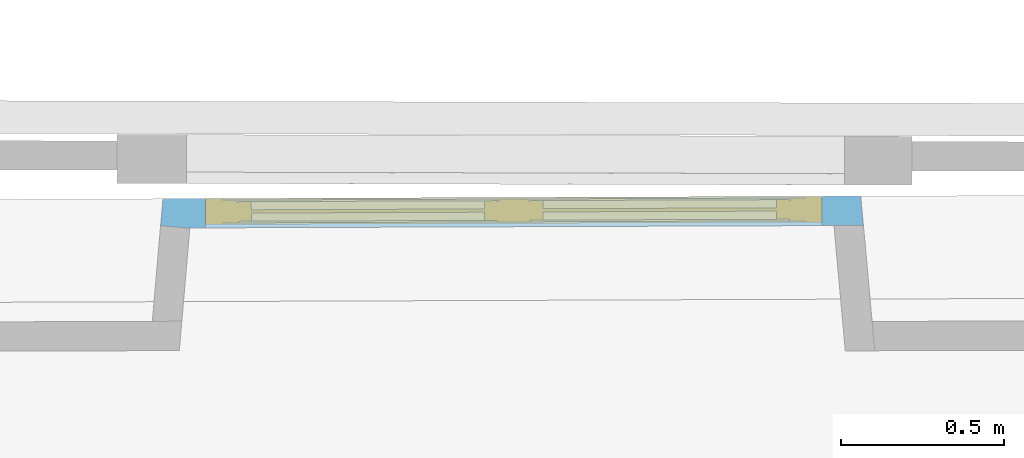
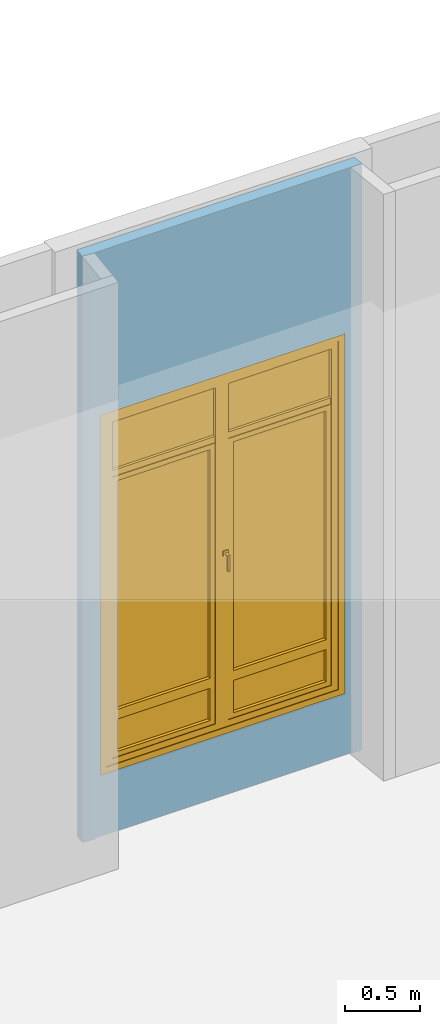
# One storey, part 67 of 97: 1 window, 2 openings, plus 1 element that does not belong to this part.
"""IFC2X3 building model written with IfcOpenShell, lengths in centimetres."""

from ifc_helpers import new_model, entity, si_unit, converted_unit, direction, frame, origin, origin_with_axes, place, context, subcontext, project, spatial, polyline, outline, extrude, faceted_brep, shape, source, transform, mapped, material, material_list, layer, layer_set, layer_usage, type_object, element, fill, save


model = new_model("IFC2X3")

# Units and contexts
model_context = context("Model", 3, precision=0.0001, world=origin(), true_north=direction((0.225632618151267, 0.974212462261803, 0.0)))
body_context = subcontext(model_context, "Body", "Model", "MODEL_VIEW")
footprint_context = subcontext(model_context, "FootPrint", "Model", "MODEL_VIEW")
profile_context = subcontext(model_context, "Profile", "Model", "MODEL_VIEW")
ifc_project = project(units=[si_unit("LENGTHUNIT", "METRE", prefix="CENTI"), si_unit("AREAUNIT", "SQUARE_METRE", prefix="CENTI"), si_unit("VOLUMEUNIT", "CUBIC_METRE", prefix="CENTI"), converted_unit("PLANEANGLEUNIT", "DEGREE", entity("IfcRatioMeasure", 0.0174532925), si_unit("PLANEANGLEUNIT", "RADIAN"), dimensions=[0, 0, 0, 0, 0, 0, 0])], contexts=[model_context])

# Site, building, storey
site_placement = place(None, origin_with_axes())
site = spatial("IfcSite", under=ifc_project, at=site_placement, Name="Default Site", CompositionType="ELEMENT")
building_placement = place(site_placement, origin_with_axes())
building = spatial("IfcBuilding", under=site, at=building_placement, Name="Default Building", CompositionType="ELEMENT")
storey_placement = place(building_placement, origin_with_axes())
storey = spatial("IfcBuildingStorey", under=building, at=storey_placement, Name="Rez-de-chaussée", CompositionType="ELEMENT", Elevation=0.0)

# Wall, openings, window
ifc_material_1 = material(Name="<aucun>")
ifc_layer = layer(ifc_material_1, 9.0)
ifc_layer_set = layer_set([ifc_layer], Name="default")
ifc_layer_usage = layer_usage(ifc_layer_set, "AXIS2", "POSITIVE", -4.5)
wall_type = type_object("IfcWallType", Name="default 90", PredefinedType="NOTDEFINED", material=ifc_layer_set)
wall_placement = place(storey_placement, frame((-307.751819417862, 587.712182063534, 0.0128503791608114), z_axis=(0.0, 0.0, 1.0), x_axis=(0.999993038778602, 0.00373127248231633, 0.0)))
wall = element("IfcWallStandardCase", 1, at=wall_placement, inside=storey, type_object=wall_type, material=ifc_layer_usage, Name="Enveloppe 669420", context=body_context, shape_type="SweptSolid", body=[
    extrude(outline(polyline([(-4.85903824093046, -3.79296680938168), (3.00765598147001, -4.49999999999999), (210.685028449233, -4.49999999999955), (209.905498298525, 4.50000000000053), (-4.11369304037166, 4.50000000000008), (-4.85903824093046, -3.79296680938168)])), frame((0.0, 0.0, 2.71050543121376e-18), z_axis=(0.0, 0.0, 1.0), x_axis=(1.0, 0.0, 0.0)), (0.0, 0.0, 1.0), 477.795358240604),
])
opening_1_placement = place(wall_placement, frame((4.8724148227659, 0.0, 9.43706918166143e-14), z_axis=(0.0, 0.0, 1.0), x_axis=(-1.0, -2.36789754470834e-15, 0.0)))
cartesian_point_1 = entity("IfcCartesianPoint", [0.0, 0.0, 48.5])
cartesian_point_2 = entity("IfcCartesianPoint", [-198.0, -4.50000000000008])
element("IfcOpeningElement", 2, at=opening_1_placement, cuts=wall, Name="Baie 30039", ObjectType="Recess", shapes=[
    shape(body_context, "Body", "Brep", [faceted_brep([(-3.08828354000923e-06, 24.5000184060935, -4.62702109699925e-10), (-198.000000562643, 24.5000184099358, -4.62702109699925e-10), (-198.000000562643, 24.5000184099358, 48.4999988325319), (-3.08828354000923e-06, 24.5000184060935, 48.4999988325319), (-3.08869106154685e-06, 3.50001141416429, 48.4999988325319), (-3.08869106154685e-06, 3.50001141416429, -4.62702109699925e-10), (8.35052929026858e-06, 3.50001141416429, -4.62702109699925e-10), (-198.000001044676, 3.4999919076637, -4.62702109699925e-10), (-198.000000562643, 24.4999988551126, -4.62702109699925e-10), (-198.00000056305, 3.4999919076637, -4.62702109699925e-10), (-198.00000056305, 3.4999919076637, 48.4999988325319), (-198.000000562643, 24.4999988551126, 48.4999988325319), (-198.000001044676, 3.4999919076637, 48.4999988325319), (8.35052929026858e-06, 3.50001141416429, 48.4999988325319), (8.35052928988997e-06, 3.49999190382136, -4.62702109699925e-10), (8.35052928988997e-06, 3.49999190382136, 48.4999988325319)], [[[0, 1, 2, 3]], [[3, 4, 5, 0]], [[0, 6, 7, 8]], [[8, 9, 10, 11]], [[11, 12, 13, 3]], [[12, 7, 14, 15]]])]),
    shape(profile_context, "Profile", "GeometricCurveSet", [entity("IfcGeometricCurveSet", [entity("IfcPolyline", [cartesian_point_1, entity("IfcCartesianPoint", [0.0, 0.0, -5.42101086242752e-18]), entity("IfcCartesianPoint", [-198.0, 0.0, -5.42101086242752e-18]), entity("IfcCartesianPoint", [-198.0, 0.0, 48.5]), cartesian_point_1])])]),
    shape(footprint_context, "FootPrint", "GeometricCurveSet", [entity("IfcGeometricCurveSet", [entity("IfcPolyline", [cartesian_point_2, entity("IfcCartesianPoint", [0.0, -4.49999999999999]), entity("IfcCartesianPoint", [0.0, 4.50000000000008]), entity("IfcCartesianPoint", [-198.0, 4.50000000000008]), cartesian_point_2])])]),
])
opening_2_placement = place(wall_placement, frame((8.97018832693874, 1.13686837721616e-13, 49.8226471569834), z_axis=(0.0, 0.0, 1.0), x_axis=(-1.0, -2.36789754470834e-15, 0.0)))
cartesian_point_3 = entity("IfcCartesianPoint", [0.0, 0.0, 294.0])
cartesian_point_4 = entity("IfcCartesianPoint", [-189.020783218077, -4.49999999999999])
opening_2 = element("IfcOpeningElement", 3, at=opening_2_placement, cuts=wall, Name="4294966447_11", ObjectType="Opening", shapes=[
    shape(body_context, "Body", "SweptSolid", [extrude(outline(polyline([(0.0, 294.0), (0.0, 0.0), (189.020783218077, 0.0), (189.020783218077, 294.0), (0.0, 294.0)])), frame((0.0, -14.5, 0.0), z_axis=(0.0, 1.0, 0.0), x_axis=(-1.0, 0.0, 0.0)), (0.0, 0.0, 1.0), 29.0)]),
    shape(profile_context, "Profile", "GeometricCurveSet", [entity("IfcGeometricCurveSet", [entity("IfcPolyline", [cartesian_point_3, entity("IfcCartesianPoint", [0.0, 0.0, 0.0]), entity("IfcCartesianPoint", [-189.020783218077, 8.88178419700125e-14, 0.0]), entity("IfcCartesianPoint", [-189.020783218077, 8.88178419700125e-14, 294.0]), cartesian_point_3])])]),
    shape(footprint_context, "FootPrint", "GeometricCurveSet", [entity("IfcGeometricCurveSet", [entity("IfcPolyline", [cartesian_point_4, entity("IfcCartesianPoint", [0.0, -4.50000000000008]), entity("IfcCartesianPoint", [4.44089209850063e-14, 4.49999999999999]), entity("IfcCartesianPoint", [-189.020783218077, 4.50000000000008]), cartesian_point_4])])]),
])
ifc_material_2 = material(Name="Transparent")
ifc_material_3 = material(Name="Blanc trafic")
ifc_material_4 = material(Name="Aluminium satiné")
ifc_material_5 = material(Name="Blanc trafic")
ifc_material_list = material_list([ifc_material_2, ifc_material_3, ifc_material_4, ifc_material_5])
window_style = type_object("IfcWindowStyle", Name="FN[R] 2VB[2V] MM", ConstructionType="NOTDEFINED", OperationType="NOTDEFINED", ParameterTakesPrecedence=False, Sizeable=False, material=ifc_material_list)
shared_shape = source(origin_with_axes(), body_context, "Body", "Brep", [
    faceted_brep([(-89.5103931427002, 289.000010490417, -3.99999991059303), (-89.5103931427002, 289.000010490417, 3.99999991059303), (-89.5103931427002, 5.00000007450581, 3.99999991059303), (-89.5103931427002, 5.00000007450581, -3.99999991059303), (-94.5103943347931, 294.000005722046, 3.99999991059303), (-94.5103943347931, 5.55111512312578e-15, 3.99999991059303), (-94.5103943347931, 294.000005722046, -3.99999991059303), (-94.5103943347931, 5.55111512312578e-15, -3.99999991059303), (89.5103931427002, 5.00000007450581, 3.99999991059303), (89.5103931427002, 5.00000007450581, -3.99999991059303), (94.5103943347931, 5.55111512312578e-15, 3.99999991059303), (94.5103943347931, 5.55111512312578e-15, -3.99999991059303), (89.5103931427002, 289.000010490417, 3.99999991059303), (89.5103931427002, 289.000010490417, -3.99999991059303), (94.5103943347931, 294.000005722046, 3.99999991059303), (94.5103943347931, 294.000005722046, -3.99999991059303)], [[[0, 1, 2, 3]], [[1, 4, 5, 2]], [[4, 6, 7, 5]], [[6, 0, 3, 7]], [[3, 2, 8, 9]], [[2, 5, 10, 8]], [[5, 7, 11, 10]], [[7, 3, 9, 11]], [[9, 8, 12, 13]], [[8, 10, 14, 12]], [[10, 11, 15, 14]], [[11, 9, 13, 15]], [[13, 12, 1, 0]], [[12, 14, 4, 1]], [[14, 15, 6, 4]], [[15, 13, 0, 6]]]),
    faceted_brep([(-85.510390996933, 284.999990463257, -3.50000001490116), (-84.510391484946, 283.999991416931, -2.50000050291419), (-84.510391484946, 10.0000001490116, -2.50000050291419), (-85.510390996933, 9.00000035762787, -3.50000001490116), (-84.5103919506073, 283.999991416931, -2.5000000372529), (-84.5103919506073, 283.999991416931, 3.50000001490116), (-84.5103919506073, 10.0000001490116, 3.50000001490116), (-84.5103919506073, 10.0000001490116, -2.5000000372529), (-89.5103931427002, 289.000010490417, 3.50000001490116), (-89.5103931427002, 5.00000007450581, 3.50000001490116), (-89.5103931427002, 289.000010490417, -3.50000001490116), (-89.5103931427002, 5.00000007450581, -3.50000001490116), (-84.5103919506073, 10.0000002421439, -2.50000013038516), (-5.00000007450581, 10.0000002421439, -2.50000013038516), (-3.99999991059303, 9.00000035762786, -3.50000001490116), (-5.00000007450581, 10.0000001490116, 3.50000001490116), (-5.00000007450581, 10.0000001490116, -2.5000000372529), (1.11022302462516e-14, 5.00000007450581, 3.50000001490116), (1.11022302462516e-14, 5.00000007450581, -3.50000001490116), (-3.99999991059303, 9.00000035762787, -3.50000001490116), (-4.99999998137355, 10.0000001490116, -2.49999994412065), (-4.99999998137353, 283.999991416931, -2.49999994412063), (-3.99999991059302, 284.999990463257, -3.50000001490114), (-5.00000007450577, 283.999991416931, 3.50000001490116), (-5.00000007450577, 283.999991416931, -2.5000000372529), (3.33066907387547e-14, 289.000010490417, 3.50000001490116), (-5.00000007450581, 283.999991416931, 3.50000001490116), (3.33066918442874e-14, 289.000010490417, -3.50000001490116), (3.33066918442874e-14, 289.000010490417, 3.50000001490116), (-3.99999991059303, 284.999990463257, -3.50000001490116), (3.33066907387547e-14, 289.000010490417, -3.50000001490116), (-5.00000007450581, 283.99999095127, -2.50000050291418), (-84.5103919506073, 283.99999095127, -2.50000050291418), (-5.00000007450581, 283.999991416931, -2.5000000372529)], [[[0, 1, 2, 3]], [[4, 5, 6, 7]], [[5, 8, 9, 6]], [[8, 10, 11, 9]], [[10, 0, 3, 11]], [[3, 12, 13, 14]], [[7, 6, 15, 16]], [[6, 9, 17, 15]], [[9, 11, 18, 17]], [[11, 3, 19, 18]], [[19, 20, 21, 22]], [[16, 15, 23, 24]], [[15, 17, 25, 26]], [[17, 18, 27, 28]], [[18, 19, 29, 30]], [[29, 31, 32, 0]], [[33, 26, 5, 4]], [[26, 25, 8, 5]], [[25, 30, 10, 8]], [[30, 29, 0, 10]]]),
    faceted_brep([(-5.00000007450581, 283.999991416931, -0.499999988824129), (-5.00000007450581, 243.650007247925, -0.499999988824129), (-84.5103919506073, 243.650007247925, -0.499999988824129), (-84.5103919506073, 283.999991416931, -0.499999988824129), (-84.5103919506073, 283.999991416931, 0.499999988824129), (-84.5103919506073, 243.650007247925, 0.499999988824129), (-5.00000007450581, 243.650007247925, 0.499999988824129), (-5.00000007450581, 283.999991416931, 0.499999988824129)], [[[0, 1, 2, 3]], [[4, 5, 6, 7]], [[3, 2, 5, 4]], [[2, 1, 6, 5]], [[1, 0, 7, 6]], [[0, 3, 4, 7]]]),
    faceted_brep([(-5.00000007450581, 238.649988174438, 2.5000000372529), (-5.00000007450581, 238.649988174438, -2.5000000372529), (-5.00000007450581, 243.650007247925, -2.5000000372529), (-5.00000007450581, 243.650007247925, 2.5000000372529), (-84.5103919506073, 243.650007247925, 2.5000000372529), (-84.5103919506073, 243.650007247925, -2.5000000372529), (-84.5103919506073, 238.649988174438, -2.5000000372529), (-84.5103919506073, 238.649988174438, 2.5000000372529)], [[[0, 1, 2, 3]], [[4, 5, 6, 7]], [[3, 2, 5, 4]], [[2, 1, 6, 5]], [[1, 0, 7, 6]], [[0, 3, 4, 7]]]),
    faceted_brep([(-80.5103898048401, 234.649991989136, -2.99999993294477), (-80.5103898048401, 234.649991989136, 2.99999993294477), (-80.5103898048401, 48.2975006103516, 2.99999993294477), (-80.5103898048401, 48.2975006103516, -2.99999993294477), (-84.5103919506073, 238.649988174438, 2.99999993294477), (-84.5103919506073, 44.2975014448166, 2.99999993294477), (-84.5103919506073, 238.649988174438, -2.99999993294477), (-84.5103919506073, 44.2975014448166, -2.99999993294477), (-9.00000035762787, 48.2975006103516, 2.99999993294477), (-9.00000035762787, 48.2975006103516, -2.99999993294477), (-5.00000007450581, 44.2975014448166, 2.99999993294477), (-5.00000007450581, 44.2975014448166, -2.99999993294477), (-9.00000035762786, 234.649991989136, 2.99999993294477), (-9.00000035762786, 234.649991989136, -2.99999993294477), (-5.00000007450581, 238.649988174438, 2.99999993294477), (-9.00000035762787, 234.649991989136, 2.99999993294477), (-5.00000007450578, 238.649988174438, -2.99999993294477), (-5.00000007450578, 238.649988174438, 2.99999993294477), (-9.00000035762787, 234.649991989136, -2.99999993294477), (-5.00000007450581, 238.649988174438, -2.99999993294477)], [[[0, 1, 2, 3]], [[1, 4, 5, 2]], [[4, 6, 7, 5]], [[6, 0, 3, 7]], [[3, 2, 8, 9]], [[2, 5, 10, 8]], [[5, 7, 11, 10]], [[7, 3, 9, 11]], [[9, 8, 12, 13]], [[8, 10, 14, 15]], [[10, 11, 16, 17]], [[11, 9, 18, 19]], [[18, 15, 1, 0]], [[15, 14, 4, 1]], [[14, 19, 6, 4]], [[19, 18, 0, 6]]]),
    faceted_brep([(-9.00000035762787, 234.649991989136, -0.499999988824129), (-9.00000035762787, 48.2975006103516, -0.499999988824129), (-80.5103898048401, 48.2975006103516, -0.499999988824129), (-80.5103898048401, 234.649991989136, -0.499999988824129), (-80.5103898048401, 234.649991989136, 0.499999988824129), (-80.5103898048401, 48.2975006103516, 0.499999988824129), (-9.00000035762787, 48.2975006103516, 0.499999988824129), (-9.00000035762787, 234.649991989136, 0.499999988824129), (-9.00000035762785, 234.649991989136, -0.499999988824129), (-9.00000035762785, 234.649991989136, 0.499999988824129)], [[[0, 1, 2, 3]], [[4, 5, 6, 7]], [[3, 2, 5, 4]], [[2, 1, 6, 5]], [[1, 8, 9, 6]], [[0, 3, 4, 7]]]),
    faceted_brep([(-80.5103898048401, 40.2974992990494, -2.99999993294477), (-80.5103898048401, 40.2974992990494, 2.99999993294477), (-80.5103898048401, 14.0000000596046, 2.99999993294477), (-80.5103898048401, 14.0000000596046, -2.99999993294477), (-84.5103919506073, 44.2975014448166, 2.99999993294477), (-84.5103919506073, 10.0000001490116, 2.99999993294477), (-84.5103919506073, 44.2975014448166, -2.99999993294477), (-84.5103919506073, 10.0000001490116, -2.99999993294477), (-9.00000035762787, 14.0000000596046, 2.99999993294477), (-9.00000035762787, 14.0000000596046, -2.99999993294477), (-5.00000007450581, 10.0000001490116, 2.99999993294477), (-5.00000007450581, 10.0000001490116, -2.99999993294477), (-9.00000035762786, 40.2974992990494, 2.99999993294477), (-9.00000035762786, 40.2974992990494, -2.99999993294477), (-5.00000007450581, 44.2975014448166, 2.99999993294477), (-9.00000035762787, 40.2974992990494, 2.99999993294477), (-5.00000007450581, 44.2975014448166, -2.99999993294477), (-9.00000035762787, 40.2974992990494, -2.99999993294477)], [[[0, 1, 2, 3]], [[1, 4, 5, 2]], [[4, 6, 7, 5]], [[6, 0, 3, 7]], [[3, 2, 8, 9]], [[2, 5, 10, 8]], [[5, 7, 11, 10]], [[7, 3, 9, 11]], [[9, 8, 12, 13]], [[8, 10, 14, 15]], [[10, 11, 16, 14]], [[11, 9, 17, 16]], [[17, 15, 1, 0]], [[15, 14, 4, 1]], [[14, 16, 6, 4]], [[16, 17, 0, 6]]]),
    faceted_brep([(-9.00000035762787, 40.2974992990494, -0.499999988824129), (-9.00000035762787, 14.0000000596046, -0.499999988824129), (-80.5103898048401, 14.0000000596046, -0.499999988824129), (-80.5103898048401, 40.2974992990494, -0.499999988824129), (-80.5103898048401, 40.2974992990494, 0.499999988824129), (-80.5103898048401, 14.0000000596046, 0.499999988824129), (-9.00000035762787, 14.0000000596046, 0.499999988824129), (-9.00000035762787, 40.2974992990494, 0.499999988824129)], [[[0, 1, 2, 3]], [[4, 5, 6, 7]], [[3, 2, 5, 4]], [[2, 1, 6, 5]], [[1, 0, 7, 6]], [[0, 3, 4, 7]]]),
    faceted_brep([(3.99999991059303, 284.999990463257, -3.50000001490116), (4.99999998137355, 283.999991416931, -2.49999994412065), (4.99999998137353, 10.0000001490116, -2.49999994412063), (3.99999991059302, 9.00000035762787, -3.50000001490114), (5.00000007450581, 283.999991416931, -2.5000000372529), (5.00000007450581, 283.999991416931, 3.50000001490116), (5.00000007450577, 10.0000001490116, 3.50000001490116), (5.00000007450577, 10.0000001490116, -2.5000000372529), (3.33066907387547e-14, 289.000010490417, 3.50000001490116), (1.11022302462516e-14, 5.00000007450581, 3.50000001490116), (5.00000007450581, 10.0000001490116, 3.50000001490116), (3.33066907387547e-14, 289.000010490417, -3.50000001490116), (1.11022291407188e-14, 5.00000007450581, -3.50000001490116), (1.11022291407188e-14, 5.00000007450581, 3.50000001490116), (3.99999991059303, 9.00000035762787, -3.50000001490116), (1.11022302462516e-14, 5.00000007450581, -3.50000001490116), (5.00000007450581, 10.0000002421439, -2.50000013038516), (84.5103919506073, 10.0000002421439, -2.50000013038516), (85.510390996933, 9.00000035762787, -3.50000001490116), (5.00000007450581, 10.0000001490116, -2.5000000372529), (84.5103919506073, 10.0000001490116, 3.50000001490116), (84.5103919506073, 10.0000001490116, -2.5000000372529), (89.5103931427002, 5.00000007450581, 3.50000001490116), (89.5103931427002, 5.00000007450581, -3.50000001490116), (84.510391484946, 10.0000001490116, -2.50000050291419), (84.510391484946, 283.999991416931, -2.50000050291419), (85.510390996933, 284.999990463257, -3.50000001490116), (84.5103919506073, 283.999991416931, 3.50000001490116), (84.5103919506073, 283.999991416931, -2.5000000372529), (89.5103931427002, 289.000010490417, 3.50000001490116), (89.5103931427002, 289.000010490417, -3.50000001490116), (84.5103919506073, 283.99999095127, -2.50000050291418), (5.00000007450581, 283.99999095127, -2.50000050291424), (3.99999991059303, 284.999990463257, -3.50000001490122)], [[[0, 1, 2, 3]], [[4, 5, 6, 7]], [[5, 8, 9, 10]], [[8, 11, 12, 13]], [[11, 0, 14, 15]], [[14, 16, 17, 18]], [[19, 10, 20, 21]], [[10, 9, 22, 20]], [[9, 15, 23, 22]], [[15, 14, 18, 23]], [[18, 24, 25, 26]], [[21, 20, 27, 28]], [[20, 22, 29, 27]], [[22, 23, 30, 29]], [[23, 18, 26, 30]], [[26, 31, 32, 33]], [[28, 27, 5, 4]], [[27, 29, 8, 5]], [[29, 30, 11, 8]], [[30, 26, 0, 11]]]),
    faceted_brep([(4.50000017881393, 149.000000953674, 3.50000001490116), (4.50000017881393, 145.000004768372, 3.50000001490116), (0.499999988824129, 145.000004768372, 3.50000001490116), (0.499999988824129, 149.000000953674, 3.50000001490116), (0.499999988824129, 149.000000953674, 4.30000014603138), (0.499999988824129, 145.000004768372, 4.30000014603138), (4.50000017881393, 145.000004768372, 4.30000014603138), (4.50000017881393, 149.000000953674, 4.30000014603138)], [[[0, 1, 2, 3]], [[4, 5, 6, 7]], [[3, 2, 5, 4]], [[2, 1, 6, 5]], [[1, 0, 7, 6]], [[0, 3, 4, 7]]]),
    faceted_brep([(3.24999988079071, 147.500002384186, 4.30000014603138), (3.24999988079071, 146.50000333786, 4.30000014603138), (1.75000000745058, 146.50000333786, 4.30000014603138), (1.75000000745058, 147.500002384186, 4.30000014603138), (1.75000000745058, 147.500002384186, 8.29999968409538), (1.75000000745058, 146.500002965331, 7.30000026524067), (3.24999988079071, 146.500002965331, 7.30000026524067), (3.24999988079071, 147.500002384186, 8.29999968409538), (1.75000000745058, 146.50000333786, 7.29999989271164), (3.24999988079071, 146.50000333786, 7.29999989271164)], [[[0, 1, 2, 3]], [[4, 5, 6, 7]], [[3, 2, 8, 4]], [[2, 1, 9, 8]], [[1, 0, 7, 9]], [[0, 3, 4, 7]]]),
    faceted_brep([(3.24999988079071, 147.500002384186, 8.29999968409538), (3.24999988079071, 146.500002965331, 7.30000026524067), (1.75000000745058, 146.500002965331, 7.30000026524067), (1.75000000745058, 147.500002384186, 8.29999968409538), (1.75000000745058, 134.500002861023, 8.29999968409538), (1.75000000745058, 134.500002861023, 7.29999989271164), (3.24999988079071, 134.500002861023, 7.29999989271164), (3.24999988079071, 134.500002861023, 8.29999968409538), (1.75000000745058, 146.50000333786, 7.29999989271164), (3.24999988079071, 146.50000333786, 7.29999989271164)], [[[0, 1, 2, 3]], [[4, 5, 6, 7]], [[3, 8, 5, 4]], [[8, 9, 6, 5]], [[9, 0, 7, 6]], [[0, 3, 4, 7]]]),
    faceted_brep([(84.5103919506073, 283.999991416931, -0.499999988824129), (84.5103919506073, 243.650007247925, -0.499999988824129), (5.00000007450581, 243.650007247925, -0.499999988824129), (5.00000007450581, 283.999991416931, -0.499999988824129), (5.00000007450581, 283.999991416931, 0.499999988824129), (5.00000007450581, 243.650007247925, 0.499999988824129), (84.5103919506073, 243.650007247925, 0.499999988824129), (84.5103919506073, 283.999991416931, 0.499999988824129), (5.0000000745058, 243.650007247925, -0.499999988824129), (5.0000000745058, 243.650007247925, 0.499999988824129)], [[[0, 1, 2, 3]], [[4, 5, 6, 7]], [[3, 8, 9, 4]], [[2, 1, 6, 5]], [[1, 0, 7, 6]], [[0, 3, 4, 7]]]),
    faceted_brep([(84.5103919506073, 238.649988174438, 2.5000000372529), (84.5103919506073, 238.649988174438, -2.5000000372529), (84.5103919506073, 243.650007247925, -2.5000000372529), (84.5103919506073, 243.650007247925, 2.5000000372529), (5.00000007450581, 243.650007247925, 2.5000000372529), (5.00000007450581, 243.650007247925, -2.5000000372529), (5.00000007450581, 238.649988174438, -2.5000000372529), (5.00000007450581, 238.649988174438, 2.5000000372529)], [[[0, 1, 2, 3]], [[4, 5, 6, 7]], [[3, 2, 5, 4]], [[2, 1, 6, 5]], [[1, 0, 7, 6]], [[0, 3, 4, 7]]]),
    faceted_brep([(9.00000035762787, 234.649991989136, -2.99999993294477), (9.00000035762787, 234.649991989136, 2.99999993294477), (9.00000035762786, 48.2975006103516, 2.99999993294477), (9.00000035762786, 48.2975006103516, -2.99999993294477), (5.00000007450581, 238.649988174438, 2.99999993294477), (5.00000007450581, 44.2975014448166, 2.99999993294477), (9.00000035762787, 48.2975006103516, 2.99999993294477), (5.00000007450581, 238.649988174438, -2.99999993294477), (5.0000000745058, 44.2975014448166, -2.99999993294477), (5.0000000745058, 44.2975014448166, 2.99999993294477), (9.00000035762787, 48.2975006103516, -2.99999993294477), (5.00000007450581, 44.2975014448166, -2.99999993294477), (80.5103898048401, 48.2975006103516, 2.99999993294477), (80.5103898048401, 48.2975006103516, -2.99999993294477), (84.5103919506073, 44.2975014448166, 2.99999993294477), (84.5103919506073, 44.2975014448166, -2.99999993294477), (80.5103898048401, 234.649991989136, 2.99999993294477), (80.5103898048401, 234.649991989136, -2.99999993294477), (84.5103919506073, 238.649988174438, 2.99999993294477), (84.5103919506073, 238.649988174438, -2.99999993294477)], [[[0, 1, 2, 3]], [[1, 4, 5, 6]], [[4, 7, 8, 9]], [[7, 0, 10, 11]], [[10, 6, 12, 13]], [[6, 5, 14, 12]], [[5, 11, 15, 14]], [[11, 10, 13, 15]], [[13, 12, 16, 17]], [[12, 14, 18, 16]], [[14, 15, 19, 18]], [[15, 13, 17, 19]], [[17, 16, 1, 0]], [[16, 18, 4, 1]], [[18, 19, 7, 4]], [[19, 17, 0, 7]]]),
    faceted_brep([(80.5103898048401, 234.649991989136, -0.499999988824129), (80.5103898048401, 48.2975006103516, -0.499999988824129), (9.00000035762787, 48.2975006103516, -0.499999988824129), (9.00000035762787, 234.649991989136, -0.499999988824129), (9.00000035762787, 234.649991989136, 0.499999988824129), (9.00000035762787, 48.2975006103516, 0.499999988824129), (80.5103898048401, 48.2975006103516, 0.499999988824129), (80.5103898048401, 234.649991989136, 0.499999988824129), (9.00000035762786, 48.2975006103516, -0.499999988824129), (9.00000035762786, 48.2975006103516, 0.499999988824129)], [[[0, 1, 2, 3]], [[4, 5, 6, 7]], [[3, 8, 9, 4]], [[2, 1, 6, 5]], [[1, 0, 7, 6]], [[0, 3, 4, 7]]]),
    faceted_brep([(9.00000035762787, 40.2974992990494, -2.99999993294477), (9.00000035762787, 40.2974992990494, 2.99999993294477), (9.00000035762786, 14.0000000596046, 2.99999993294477), (9.00000035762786, 14.0000000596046, -2.99999993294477), (5.00000007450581, 44.2975014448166, 2.99999993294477), (5.00000007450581, 10.0000001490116, 2.99999993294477), (9.00000035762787, 14.0000000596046, 2.99999993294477), (5.00000007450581, 44.2975014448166, -2.99999993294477), (5.00000007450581, 10.0000001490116, -2.99999993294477), (9.00000035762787, 14.0000000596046, -2.99999993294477), (80.5103898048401, 14.0000000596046, 2.99999993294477), (80.5103898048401, 14.0000000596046, -2.99999993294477), (84.5103919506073, 10.0000001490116, 2.99999993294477), (84.5103919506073, 10.0000001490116, -2.99999993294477), (80.5103898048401, 40.2974992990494, 2.99999993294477), (80.5103898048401, 40.2974992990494, -2.99999993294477), (84.5103919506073, 44.2975014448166, 2.99999993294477), (84.5103919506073, 44.2975014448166, -2.99999993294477)], [[[0, 1, 2, 3]], [[1, 4, 5, 6]], [[4, 7, 8, 5]], [[7, 0, 9, 8]], [[9, 6, 10, 11]], [[6, 5, 12, 10]], [[5, 8, 13, 12]], [[8, 9, 11, 13]], [[11, 10, 14, 15]], [[10, 12, 16, 14]], [[12, 13, 17, 16]], [[13, 11, 15, 17]], [[15, 14, 1, 0]], [[14, 16, 4, 1]], [[16, 17, 7, 4]], [[17, 15, 0, 7]]]),
    faceted_brep([(80.5103898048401, 40.2974992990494, -0.499999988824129), (80.5103898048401, 14.0000000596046, -0.499999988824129), (9.00000035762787, 14.0000000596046, -0.499999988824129), (9.00000035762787, 40.2974992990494, -0.499999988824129), (9.00000035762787, 40.2974992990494, 0.499999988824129), (9.00000035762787, 14.0000000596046, 0.499999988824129), (80.5103898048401, 14.0000000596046, 0.499999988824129), (80.5103898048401, 40.2974992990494, 0.499999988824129), (9.00000035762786, 14.0000000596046, -0.499999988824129), (9.00000035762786, 14.0000000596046, 0.499999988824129)], [[[0, 1, 2, 3]], [[4, 5, 6, 7]], [[3, 8, 9, 4]], [[2, 1, 6, 5]], [[1, 0, 7, 6]], [[0, 3, 4, 7]]]),
])
window_placement = place(opening_2_placement, frame((-189.020783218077, -4.49999999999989, 0.0), z_axis=(0.0, 0.0, 1.0), x_axis=(1.0, 0.0, 0.0)))
window = element("IfcWindow", 4, at=window_placement, inside=storey, type_object=window_style, material=ifc_material_list, Name="Fenêtre 23859", OverallHeight=294.0, OverallWidth=189.020783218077, context=body_context, shape_type="MappedRepresentation", body=[
    mapped(shared_shape, transform((94.5103916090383, 4.00000000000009, 0.0), x_axis=(-1.0, -4.33680868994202e-19, 0.0), y_axis=(0.0, 0.0, 1.0), z_axis=(-4.33680868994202e-19, 1.0, 0.0), scale=1.0, scale2=1.0, scale3=1.0, uniform=False)),
])
fill(opening_2, window)

save(model, "model.ifc")
